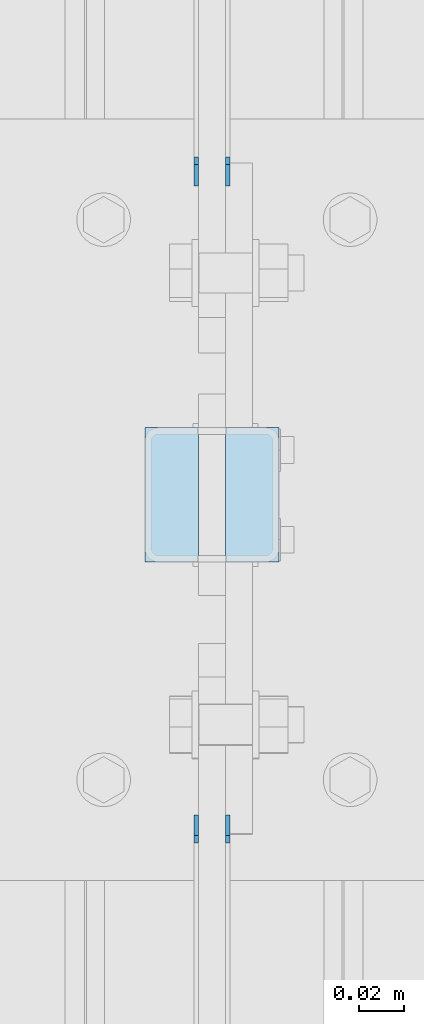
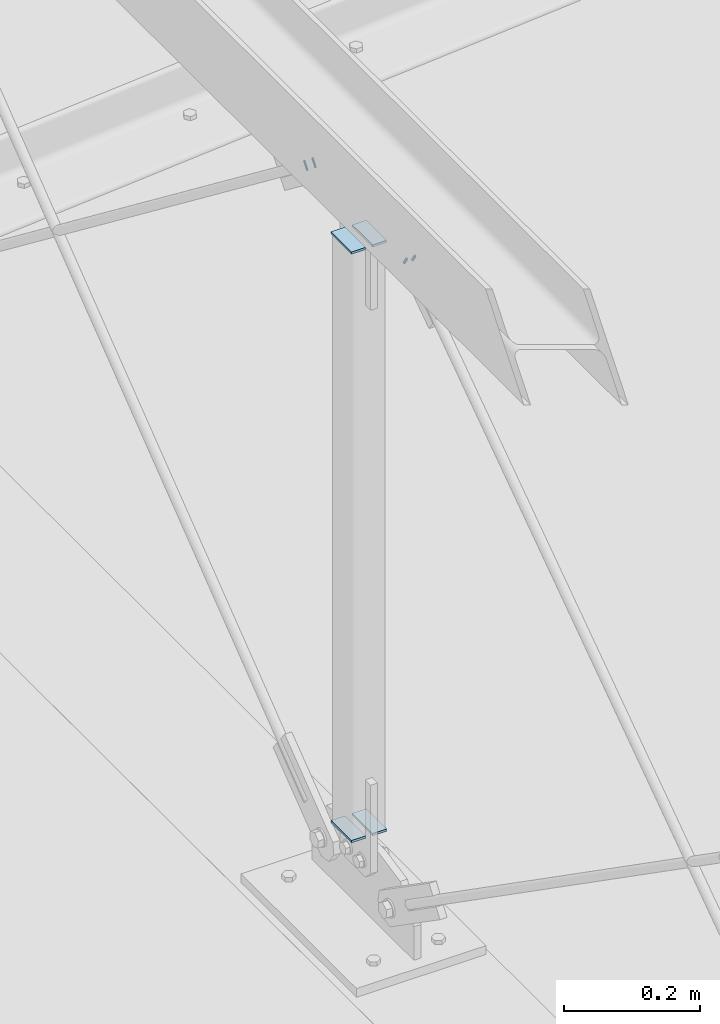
# One storey, part 203 of 271: 8 plates, 3 elements without a shape of their own.
"""IFC2X3 building model written with IfcOpenShell, lengths in millimetres."""

import ifcopenshell
import ifcopenshell.guid

model = None  # the IFC model being written
_history = None  # IfcOwnerHistory: only IFC2X3 demands one
_inside = {}  # id of a spatial element -> (the spatial element, [elements in it])
_under = {}  # id of a project, library or spatial element -> (it, [spatial elements below it])
_declared = {}  # id of a project -> (the project, [libraries it declares])
_typed = {}  # id of a type object -> (the type object, [elements of that type])
_made_of = {}  # id of a material, layer set ... -> (it, [elements and type objects made of it])


def new_model(schema):
    """Start an empty IFC model of exactly this schema.

    Asked for "IFC4X3", IfcOpenShell would pick the latest addendum, in which some entities
    have other attributes; the version numbers below select the first issue.
    IFC2X3 requires an IfcOwnerHistory on every rooted entity: one is made here for all.
    """
    global model, _history
    if schema == "IFC4X3":
        model = ifcopenshell.file(schema_version=(4, 3, 0, 0))
    else:
        model = ifcopenshell.file(schema=schema)
    _inside.clear()
    _under.clear()
    _declared.clear()
    _typed.clear()
    _made_of.clear()
    _history = None
    if model.schema == "IFC2X3":
        org = make("IfcOrganization", Name="unknown")
        user = make(
            "IfcPersonAndOrganization",
            ThePerson=make("IfcPerson", FamilyName="unknown"),
            TheOrganization=org,
        )
        app = make(
            "IfcApplication",
            ApplicationDeveloper=org,
            Version="unknown",
            ApplicationFullName="unknown",
            ApplicationIdentifier="unknown",
        )
        _history = make(
            "IfcOwnerHistory",
            OwningUser=user,
            OwningApplication=app,
            ChangeAction="ADDED",
            CreationDate=0,
        )
    return model


def make(cls, **values):
    """One entity of the class cls with the attributes given. An attribute that is None is left unset."""
    return model.create_entity(
        cls, **{name: value for name, value in values.items() if value is not None}
    )


def rooted(cls, **values):
    """An entity with a GlobalId (a new one), such as an element, a storey or a relation."""
    return make(cls, GlobalId=ifcopenshell.guid.new(), OwnerHistory=_history, **values)


def si_unit(unit_type, name, prefix=None):
    """IfcSIUnit, for example si_unit("LENGTHUNIT", "METRE", prefix="MILLI")."""
    return make("IfcSIUnit", UnitType=unit_type, Prefix=prefix, Name=name)


def assignment(units):
    """IfcUnitAssignment: the units of a project."""
    return None if units is None else make("IfcUnitAssignment", Units=units)


def point(xyz):
    """IfcCartesianPoint."""
    return None if xyz is None else make("IfcCartesianPoint", Coordinates=xyz)


def direction(xyz):
    """IfcDirection."""
    return None if xyz is None else make("IfcDirection", DirectionRatios=xyz)


def frame(location, z_axis=None, x_axis=None):
    """IfcAxis2Placement3D, a coordinate frame: its origin and axes. An axis left out is left unset."""
    return make(
        "IfcAxis2Placement3D",
        Location=point(location),
        Axis=direction(z_axis),
        RefDirection=direction(x_axis),
    )


def origin_with_axes():
    """The frame at (0, 0, 0) with the z axis (0, 0, 1) and the x axis (1, 0, 0) written out."""
    return frame((0.0, 0.0, 0.0), z_axis=(0.0, 0.0, 1.0), x_axis=(1.0, 0.0, 0.0))


def place(relative_to, where):
    """IfcLocalPlacement: puts the frame where relative to a parent placement (None: the world)."""
    return make(
        "IfcLocalPlacement", PlacementRelTo=relative_to, RelativePlacement=where
    )


def context(
    kind, dimensions, precision=None, world=None, true_north=None, identifier=None
):
    """IfcGeometricRepresentationContext, for example the 3D "Model" context."""
    return make(
        "IfcGeometricRepresentationContext",
        ContextIdentifier=identifier,
        ContextType=kind,
        CoordinateSpaceDimension=dimensions,
        Precision=precision,
        WorldCoordinateSystem=world,
        TrueNorth=true_north,
    )


def subcontext(parent, identifier, kind, view, scale=None):
    """IfcGeometricRepresentationSubContext, for example "Body" below "Model"."""
    return make(
        "IfcGeometricRepresentationSubContext",
        ContextIdentifier=identifier,
        ContextType=kind,
        ParentContext=parent,
        TargetScale=scale,
        TargetView=view,
    )


def project(units=None, contexts=None):
    """IfcProject with its units and contexts."""
    return rooted(
        "IfcProject",
        Name="project",
        RepresentationContexts=contexts,
        UnitsInContext=assignment(units),
    )


def spatial(cls, under=None, at=None, **own):
    """A site, building, storey or space (cls), placed at a placement, below another one or the project."""
    s = rooted(cls, ObjectPlacement=at, **own)
    if under is not None:
        _under.setdefault(under.id(), (under, []))[1].append(s)
    return s


def polyline(points):
    """IfcPolyline through the points."""
    return make("IfcPolyline", Points=[point(p) for p in points])


def outline(outer, holes=None, kind="AREA"):
    """IfcArbitraryClosedProfileDef: a profile drawn as a closed curve; with holes, ...WithVoids."""
    if holes is None:
        return make("IfcArbitraryClosedProfileDef", ProfileType=kind, OuterCurve=outer)
    return make(
        "IfcArbitraryProfileDefWithVoids",
        ProfileType=kind,
        OuterCurve=outer,
        InnerCurves=holes,
    )


def extrude(swept, where, along, depth):
    """IfcExtrudedAreaSolid: the profile swept, set in the frame where, extruded along a direction by depth."""
    return make(
        "IfcExtrudedAreaSolid",
        SweptArea=swept,
        Position=where,
        ExtrudedDirection=direction(along),
        Depth=depth,
    )


def shape(context_of_items, identifier, shape_type, items):
    """IfcShapeRepresentation: the items that make up one representation, for example the "Body"."""
    return make(
        "IfcShapeRepresentation",
        ContextOfItems=context_of_items,
        RepresentationIdentifier=identifier,
        RepresentationType=shape_type,
        Items=items,
    )


def material(Name=None, Category=None):
    """IfcMaterial."""
    return make("IfcMaterial", Name=Name, Category=Category)


def made_of(thing, what):
    """Note that an element or type object is made of a material, layer set ...; save() writes the relation."""
    if what is not None:
        _made_of.setdefault(what.id(), (what, []))[1].append(thing)
    return thing


def type_object(cls, material=None, **own):
    """A type object (cls), such as IfcWallType, which elements share."""
    return made_of(rooted(cls, **own), material)


def element(
    cls,
    number,
    at=None,
    inside=None,
    cuts=None,
    type_object=None,
    material=None,
    context=None,
    identifier="Body",
    shape_type=None,
    held_by="IfcProductDefinitionShape",
    body=None,
    shapes=None,
    **own,
):
    """One element of the class cls, such as IfcWall. Its Tag is "e" and its number.

    at: its placement. inside: the storey or other place that contains it. cuts: it is an
    opening in that element (IfcRelVoidsElement). A single representation is given by context,
    identifier, shape_type and body (its items); several are given by shapes. held_by: the class
    of the entity that holds the representations. save() writes the other relations.
    """
    e = rooted(cls, Tag="e%d" % number, ObjectPlacement=at, **own)
    if body is not None:
        shapes = [shape(context, identifier, shape_type, body)]
    if shapes is not None:
        e.Representation = make(held_by, Representations=shapes)
    if inside is not None:
        _inside.setdefault(inside.id(), (inside, []))[1].append(e)
    if cuts is not None:
        rooted(
            "IfcRelVoidsElement", RelatingBuildingElement=cuts, RelatedOpeningElement=e
        )
    if type_object is not None:
        _typed.setdefault(type_object.id(), (type_object, []))[1].append(e)
    return made_of(e, material)


def aggregate(whole, parts):
    """IfcRelAggregates: a whole, such as a stair, and the parts it consists of."""
    return rooted("IfcRelAggregates", RelatingObject=whole, RelatedObjects=parts)


def save(model, path):
    """Write the relations noted so far, then the file.

    IfcRelAggregates (storeys below a building ...), IfcRelContainedInSpatialStructure (elements
    in a storey), IfcRelDefinesByType, IfcRelAssociatesMaterial and IfcRelDeclares: one each for
    every whole, place, type object, material and project.
    """
    for whole, parts in _under.values():
        aggregate(whole, parts)
    for where, things in _inside.values():
        rooted(
            "IfcRelContainedInSpatialStructure",
            RelatedElements=things,
            RelatingStructure=where,
        )
    for kind, things in _typed.values():
        rooted("IfcRelDefinesByType", RelatedObjects=things, RelatingType=kind)
    for what, things in _made_of.values():
        rooted("IfcRelAssociatesMaterial", RelatedObjects=things, RelatingMaterial=what)
    for by, libraries in _declared.values():
        rooted("IfcRelDeclares", RelatingContext=by, RelatedDefinitions=libraries)
    model.write(path)


model = new_model("IFC2X3")

# Units and contexts
model_context = context("Model", 3, precision=1e-05, world=origin_with_axes())
body_context = subcontext(model_context, "Body", "Model", "MODEL_VIEW")
ifc_project = project(units=[si_unit("LENGTHUNIT", "METRE", prefix="MILLI"), si_unit("AREAUNIT", "SQUARE_METRE"), si_unit("VOLUMEUNIT", "CUBIC_METRE"), si_unit("MASSUNIT", "GRAM", prefix="KILO"), si_unit("TIMEUNIT", "SECOND"), si_unit("PLANEANGLEUNIT", "RADIAN"), si_unit("SOLIDANGLEUNIT", "STERADIAN"), si_unit("THERMODYNAMICTEMPERATUREUNIT", "DEGREE_CELSIUS"), si_unit("LUMINOUSINTENSITYUNIT", "LUMEN")], contexts=[model_context])

# Site, building, storey
site_placement = place(None, origin_with_axes())
site = spatial("IfcSite", under=ifc_project, at=site_placement, Name="Undefined", CompositionType="ELEMENT")
building_placement = place(site_placement, origin_with_axes())
building = spatial("IfcBuilding", under=site, at=building_placement, Name="Undefined", CompositionType="ELEMENT")
storey_placement = place(building_placement, origin_with_axes())
storey = spatial("IfcBuildingStorey", under=building, at=storey_placement, Name="Undefined", CompositionType="ELEMENT", Elevation=0.0)

# Assembly, plates
assembly_1_placement = place(storey_placement, origin_with_axes())
assembly_1 = element("IfcElementAssembly", 1, at=assembly_1_placement, inside=storey, AssemblyPlace="NOTDEFINED", PredefinedType="RIGID_FRAME")
ifc_material = material(Name="STEEL/S355JR")
plate_type_1 = type_object("IfcPlateType", Name="BL4*2", PredefinedType="NOTDEFINED")
plate_1_placement = place(assembly_1_placement, frame((6341.37568798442, 1834.68385845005, 1253.67266451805), z_axis=(0.0, -0.819863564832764, -0.572558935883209), x_axis=(0.0, -0.572558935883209, 0.819863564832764)))
plate_1 = element("IfcPlate", 2, at=plate_1_placement, type_object=plate_type_1, material=ifc_material, Name="BLACHA", ObjectType="BL4*2", context=body_context, shape_type="SweptSolid", body=[
    extrude(outline(polyline([(0.0, 0.0), (15.9999980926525, -7.67386154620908e-13), (15.9999980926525, 1.99999964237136), (0.0, 1.99999964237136), (0.0, 0.0)])), frame((0.0, 0.0, -2.0), z_axis=(0.0, 0.0, 1.0), x_axis=(1.0, 0.0, 0.0)), (0.0, 0.0, 1.0), 4.0),
])
plate_2_placement = place(assembly_1_placement, frame((6355.37568767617, 1834.68385845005, 1253.67266451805), z_axis=(0.0, -0.819863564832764, -0.572558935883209), x_axis=(0.0, -0.572558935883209, 0.819863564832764)))
plate_2 = element("IfcPlate", 3, at=plate_2_placement, type_object=plate_type_1, material=ifc_material, Name="BLACHA", ObjectType="BL4*2", context=body_context, shape_type="SweptSolid", body=[
    extrude(outline(polyline([(0.0, 0.0), (15.9999980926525, -7.67386154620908e-13), (15.9999980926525, 1.99999964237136), (0.0, 1.99999964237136), (0.0, 0.0)])), frame((0.0, 0.0, -2.0), z_axis=(0.0, 0.0, 1.0), x_axis=(1.0, 0.0, 0.0)), (0.0, 0.0, 1.0), 4.0),
])
aggregate(assembly_1, [plate_1, plate_2])

assembly_2_placement = place(storey_placement, origin_with_axes())
assembly_2 = element("IfcElementAssembly", 4, at=assembly_2_placement, inside=storey, AssemblyPlace="NOTDEFINED", PredefinedType="RIGID_FRAME")
plate_3_placement = place(assembly_2_placement, frame((6341.37568798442, 2128.35051592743, 1259.89493550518), z_axis=(0.0, 0.793123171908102, -0.609061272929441), x_axis=(0.0, -0.609061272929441, -0.793123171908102)))
plate_3 = element("IfcPlate", 5, at=plate_3_placement, type_object=plate_type_1, material=ifc_material, Name="BLACHA", ObjectType="BL4*2", context=body_context, shape_type="SweptSolid", body=[
    extrude(outline(polyline([(0.0, 0.0), (15.9999980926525, -7.67386154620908e-13), (15.9999980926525, 1.99999964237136), (0.0, 1.99999964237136), (0.0, 0.0)])), frame((0.0, 0.0, -2.0), z_axis=(0.0, 0.0, 1.0), x_axis=(1.0, 0.0, 0.0)), (0.0, 0.0, 1.0), 4.0),
])
plate_4_placement = place(assembly_2_placement, frame((6355.37568767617, 2128.35051592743, 1259.89493550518), z_axis=(0.0, 0.793123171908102, -0.609061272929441), x_axis=(0.0, -0.609061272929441, -0.793123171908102)))
plate_4 = element("IfcPlate", 6, at=plate_4_placement, type_object=plate_type_1, material=ifc_material, Name="BLACHA", ObjectType="BL4*2", context=body_context, shape_type="SweptSolid", body=[
    extrude(outline(polyline([(0.0, 0.0), (15.9999980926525, -7.67386154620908e-13), (15.9999980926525, 1.99999964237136), (0.0, 1.99999964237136), (0.0, 0.0)])), frame((0.0, 0.0, -2.0), z_axis=(0.0, 0.0, 1.0), x_axis=(1.0, 0.0, 0.0)), (0.0, 0.0, 1.0), 4.0),
])
aggregate(assembly_2, [plate_3, plate_4])

assembly_3_placement = place(storey_placement, origin_with_axes())
assembly_3 = element("IfcElementAssembly", 7, at=assembly_3_placement, inside=storey, AssemblyPlace="NOTDEFINED", PredefinedType="RIGID_FRAME")
plate_type_2 = type_object("IfcPlateType", Name="BL4*24", PredefinedType="NOTDEFINED")
plate_5_placement = place(assembly_3_placement, frame((6317.37568767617, 1949.19355050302, 151.875726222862), z_axis=(0.0, 0.0, 1.0), x_axis=(1.0, 0.0, 0.0)))
plate_5 = element("IfcPlate", 8, at=plate_5_placement, type_object=plate_type_2, material=ifc_material, Name="BLACHA", ObjectType="BL4*24", context=body_context, shape_type="SweptSolid", body=[
    extrude(outline(polyline([(0.0, 0.0), (24.0, 0.0), (24.0, 60.0), (0.0, 60.0), (0.0, 0.0)])), frame((0.0, 0.0, -2.0), z_axis=(0.0, 0.0, 1.0), x_axis=(1.0, 0.0, 0.0)), (0.0, 0.0, 1.0), 4.0),
])
plate_6_placement = place(assembly_3_placement, frame((6353.37568798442, 1949.19355050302, 151.875726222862), z_axis=(0.0, 0.0, 1.0), x_axis=(1.0, 0.0, 0.0)))
plate_6 = element("IfcPlate", 9, at=plate_6_placement, type_object=plate_type_2, material=ifc_material, Name="BLACHA", ObjectType="BL4*24", context=body_context, shape_type="SweptSolid", body=[
    extrude(outline(polyline([(0.0, 0.0), (24.0, 0.0), (24.0, 60.0), (0.0, 60.0), (0.0, 0.0)])), frame((0.0, 0.0, -2.0), z_axis=(0.0, 0.0, 1.0), x_axis=(1.0, 0.0, 0.0)), (0.0, 0.0, 1.0), 4.0),
])
plate_7_placement = place(assembly_3_placement, frame((6317.37568767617, 2009.19355050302, 1209.59999990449), z_axis=(0.0, 0.0, -1.0), x_axis=(1.0, 0.0, 0.0)))
plate_7 = element("IfcPlate", 10, at=plate_7_placement, type_object=plate_type_2, material=ifc_material, Name="BLACHA", ObjectType="BL4*24", context=body_context, shape_type="SweptSolid", body=[
    extrude(outline(polyline([(0.0, 0.0), (24.0, 0.0), (24.0, 60.0), (0.0, 60.0), (0.0, 0.0)])), frame((0.0, 0.0, -2.0), z_axis=(0.0, 0.0, 1.0), x_axis=(1.0, 0.0, 0.0)), (0.0, 0.0, 1.0), 4.0),
])
plate_8_placement = place(assembly_3_placement, frame((6353.37568798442, 2009.19355050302, 1209.59999990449), z_axis=(0.0, 0.0, -1.0), x_axis=(1.0, 0.0, 0.0)))
plate_8 = element("IfcPlate", 11, at=plate_8_placement, type_object=plate_type_2, material=ifc_material, Name="BLACHA", ObjectType="BL4*24", context=body_context, shape_type="SweptSolid", body=[
    extrude(outline(polyline([(0.0, 0.0), (24.0, 0.0), (24.0, 60.0), (0.0, 60.0), (0.0, 0.0)])), frame((0.0, 0.0, -2.0), z_axis=(0.0, 0.0, 1.0), x_axis=(1.0, 0.0, 0.0)), (0.0, 0.0, 1.0), 4.0),
])
aggregate(assembly_3, [plate_5, plate_6, plate_7, plate_8])

save(model, "model.ifc")
